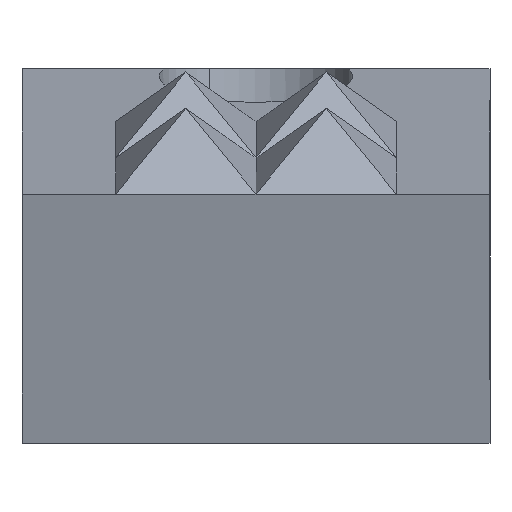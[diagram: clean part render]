
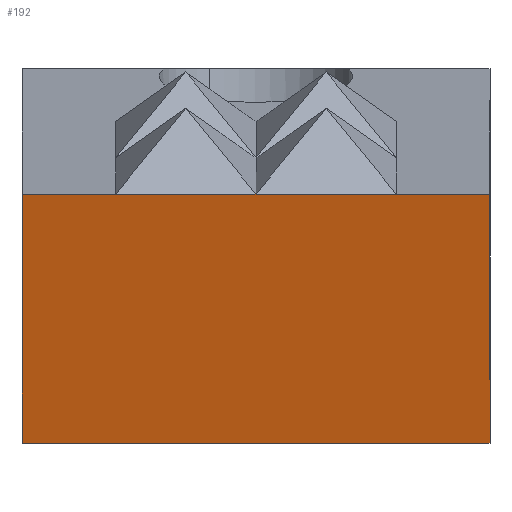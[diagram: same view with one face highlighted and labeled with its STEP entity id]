
A CAD part, left-side view. The second image highlights one B-rep face of the part: STEP entity #192.
In plain terms, the highlighted planar face has unit normal (-0.966, 0, -0.259).
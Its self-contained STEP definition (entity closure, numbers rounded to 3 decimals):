
#136=AXIS2_PLACEMENT_3D('Plane Axis2P3D',#133,#134,#135) ;
#41=CARTESIAN_POINT('Vertex',(-11.5,0.,5.321)) ;
#119=CARTESIAN_POINT('Vertex',(-11.5,3.,5.321)) ;
#133=CARTESIAN_POINT('Axis2P3D Location',(-11.5,5.,5.321)) ;
#138=CARTESIAN_POINT('Line Origine',(-10.074,0.,0.)) ;
#142=CARTESIAN_POINT('Vertex',(-10.074,5.,0.)) ;
#144=CARTESIAN_POINT('Vertex',(-10.074,-5.,0.)) ;
#147=CARTESIAN_POINT('Line Origine',(-10.787,-5.,2.66)) ;
#151=CARTESIAN_POINT('Vertex',(-11.5,-5.,5.321)) ;
#154=CARTESIAN_POINT('Line Origine',(-11.5,-4.,5.321)) ;
#158=CARTESIAN_POINT('Vertex',(-11.5,-3.,5.321)) ;
#161=CARTESIAN_POINT('Line Origine',(-11.5,-1.5,5.321)) ;
#166=CARTESIAN_POINT('Line Origine',(-11.5,1.5,5.321)) ;
#171=CARTESIAN_POINT('Line Origine',(-11.5,4.,5.321)) ;
#175=CARTESIAN_POINT('Vertex',(-11.5,5.,5.321)) ;
#178=CARTESIAN_POINT('Line Origine',(-10.787,5.,2.66)) ;
#134=DIRECTION('Axis2P3D Direction',(-0.966,-0.,-0.259)) ;
#135=DIRECTION('Axis2P3D XDirection',(0.259,0.,-0.966)) ;
#139=DIRECTION('Vector Direction',(0.,-1.,0.)) ;
#148=DIRECTION('Vector Direction',(0.259,0.,-0.966)) ;
#155=DIRECTION('Vector Direction',(0.,-1.,0.)) ;
#162=DIRECTION('Vector Direction',(0.,1.,0.)) ;
#167=DIRECTION('Vector Direction',(0.,1.,0.)) ;
#172=DIRECTION('Vector Direction',(0.,-1.,0.)) ;
#179=DIRECTION('Vector Direction',(0.259,0.,-0.966)) ;
#140=VECTOR('Line Direction',#139,1.) ;
#149=VECTOR('Line Direction',#148,1.) ;
#156=VECTOR('Line Direction',#155,1.) ;
#163=VECTOR('Line Direction',#162,1.) ;
#168=VECTOR('Line Direction',#167,1.) ;
#173=VECTOR('Line Direction',#172,1.) ;
#180=VECTOR('Line Direction',#179,1.) ;
#184=ORIENTED_EDGE('',*,*,#146,.T.) ;
#185=ORIENTED_EDGE('',*,*,#153,.F.) ;
#186=ORIENTED_EDGE('',*,*,#160,.F.) ;
#187=ORIENTED_EDGE('',*,*,#165,.F.) ;
#188=ORIENTED_EDGE('',*,*,#170,.F.) ;
#189=ORIENTED_EDGE('',*,*,#177,.F.) ;
#190=ORIENTED_EDGE('',*,*,#182,.T.) ;
#192=ADVANCED_FACE('PartBody',(#191),#137,.T.) ;
#146=EDGE_CURVE('',#143,#145,#141,.T.) ;
#153=EDGE_CURVE('',#152,#145,#150,.T.) ;
#160=EDGE_CURVE('',#159,#152,#157,.T.) ;
#165=EDGE_CURVE('',#42,#159,#164,.F.) ;
#170=EDGE_CURVE('',#120,#42,#169,.F.) ;
#177=EDGE_CURVE('',#176,#120,#174,.T.) ;
#182=EDGE_CURVE('',#176,#143,#181,.T.) ;
#183=EDGE_LOOP('',(#184,#185,#186,#187,#188,#189,#190)) ;
#191=FACE_OUTER_BOUND('',#183,.T.) ;
#141=LINE('Line',#138,#140) ;
#150=LINE('Line',#147,#149) ;
#157=LINE('Line',#154,#156) ;
#164=LINE('Line',#161,#163) ;
#169=LINE('Line',#166,#168) ;
#174=LINE('Line',#171,#173) ;
#181=LINE('Line',#178,#180) ;
#137=PLANE('Plane',#136) ;
#42=VERTEX_POINT('',#41) ;
#120=VERTEX_POINT('',#119) ;
#143=VERTEX_POINT('',#142) ;
#145=VERTEX_POINT('',#144) ;
#152=VERTEX_POINT('',#151) ;
#159=VERTEX_POINT('',#158) ;
#176=VERTEX_POINT('',#175) ;
